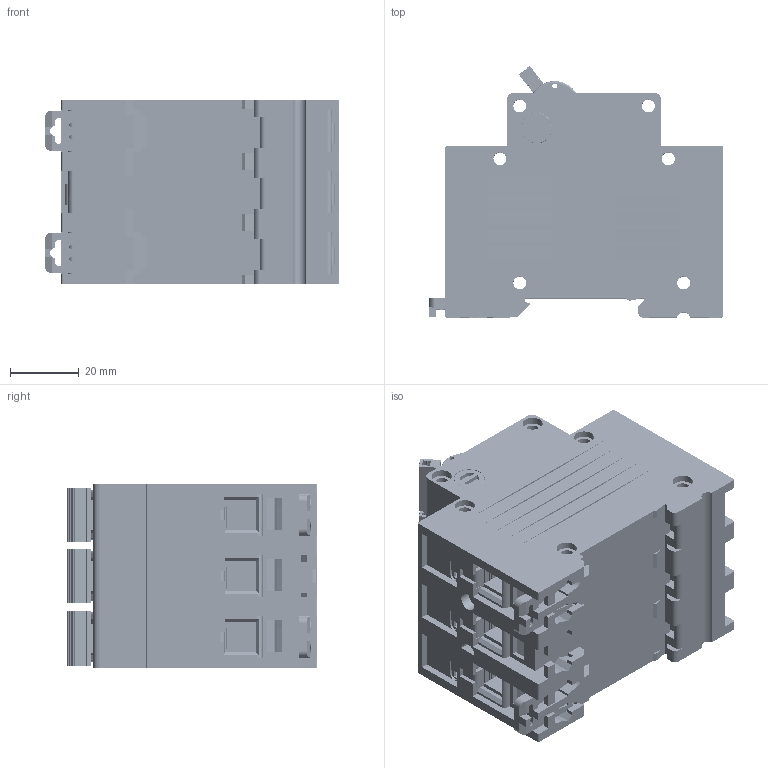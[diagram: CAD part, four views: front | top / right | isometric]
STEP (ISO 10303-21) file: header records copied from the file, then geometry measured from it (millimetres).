
FILE_DESCRIPTION (( 'STEP AP203' ), '1' );
FILE_NAME ('BKN3P(覃誹蹟隊諳党蜊).STEP', '2016-04-06T00:49:02', ( 'User' ), ( 'Company' ), 'SwSTEP 2.0', 'SolidWorks 2013', '' );
FILE_SCHEMA (( 'CONFIG_CONTROL_DESIGN' ));
Length unit declared in the file: inch
Products named in the file (14): 装配体多极(调节螺钉口修改); 噙揖裝550.1301; BKN3P(覃誹蹟隊諳党蜊); 忒梟253.1300; 封口塞; BKN多极基座（调节螺钉口修改）; BKN基座（调节螺钉口修改）; BKN裔ㄗ覃誹蹟隊諳党蜊ㄘ; 假蚾縐148.1300; 諉盄蹟隊901.1300; BKN1P(覃誹蹟隊諳党蜊); 諉盄え516.1300; BKN多极盖（调节螺钉口修改）; 諉盄釱574.1300
Assembly tree (35 placements, depth 3):
  BKN3P(覃誹蹟隊諳党蜊)
    BKN裔ㄗ覃誹蹟隊諳党蜊ㄘ
    諉盄蹟隊901.1300  x4
    諉盄え516.1300  x2
    諉盄釱574.1300  x4
    噙揖裝550.1301  x2
    忒梟253.1300  x2
    封口塞
    BKN多极基座（调节螺钉口修改）
    BKN1P(覃誹蹟隊諳党蜊)
      BKN基座（调节螺钉口修改）
      諉盄蹟隊901.1300  x2
      諉盄え516.1300
      諉盄釱574.1300  x2
      噙揖裝550.1301
      忒梟253.1300
      封口塞  x2
      BKN裔ㄗ覃誹蹟隊諳党蜊ㄘ
      假蚾縐148.1300
    BKN多极盖（调节螺钉口修改）
    装配体多极(调节螺钉口修改)
      BKN多极盖（调节螺钉口修改）
      BKN多极基座（调节螺钉口修改）
    假蚾縐148.1300
Bounding box: 85.74 x 73.2 x 53.4 mm (x, y, z)
Volume: 66739.1 mm3; surface area: 147502.8 mm2
Topology: 34 solids, 53 shells, 7343 faces, 20139 edges, 13110 vertices
Faces by surface type: plane 4920, cylinder 2172, torus 144, cone 95, sphere 12
Entity records: 116779 total; most frequent: CARTESIAN_POINT 20750, ORIENTED_EDGE 19854, DIRECTION 19545, EDGE_CURVE 9939, VECTOR 7255, LINE 7255, VERTEX_POINT 6516, AXIS2_PLACEMENT_3D 6145
